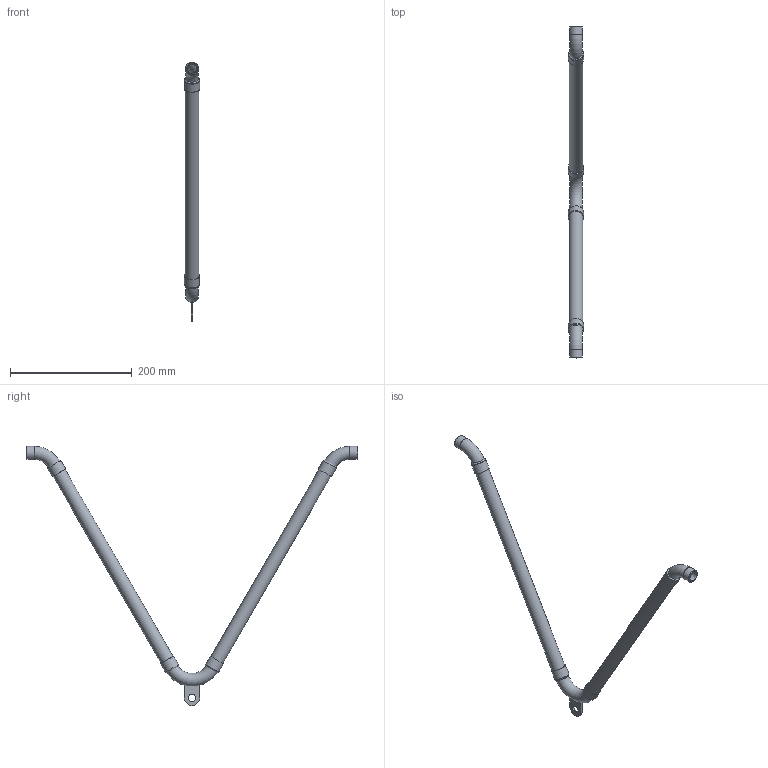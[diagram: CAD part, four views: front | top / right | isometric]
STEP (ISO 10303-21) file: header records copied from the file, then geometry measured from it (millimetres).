
FILE_DESCRIPTION(/* description */ (''),/* implementation_level */ '2;1');
FILE_NAME(/* name */ 'C:\001_Work\Designs\CSAVWN\CSAVWN-0.5x21.5.stp',/* time_stamp */ '2016-06-02T19:17:26-04:00',/* author */ ('rramoutar'),/* organization */ ('Mason Industries Inc.'),/* preprocessor_version */ 'ST-DEVELOPER v15.6',/* originating_system */ 'Autodesk Inventor 2015',/* authorisation */ '');
FILE_SCHEMA (('CONFIG_CONTROL_DESIGN'));
Length unit declared in the file: inch
Products named in the file (1): CSAVWN-0.5x21.5
Bounding box: 25.06 x 546.1 x 426.59 mm (x, y, z)
Volume: 56120.3 mm3; surface area: 146519.3 mm2
Topology: 12 solids, 12 shells, 61 faces, 109 edges, 72 vertices
Faces by surface type: plane 27, cylinder 22, torus 10, cone 2
Full cylindrical faces by diameter (mm): 12.7 x1, 15.799 x2, 19.05 x4, 21.336 x2, 22.098 x2, 22.708 x6, 25.089 x4
Entity records: 1413 total; most frequent: DIRECTION 250, CARTESIAN_POINT 194, ORIENTED_EDGE 136, AXIS2_PLACEMENT_3D 120, EDGE_LOOP 118, STYLED_ITEM 73, EDGE_CURVE 68, VERTEX_POINT 64
